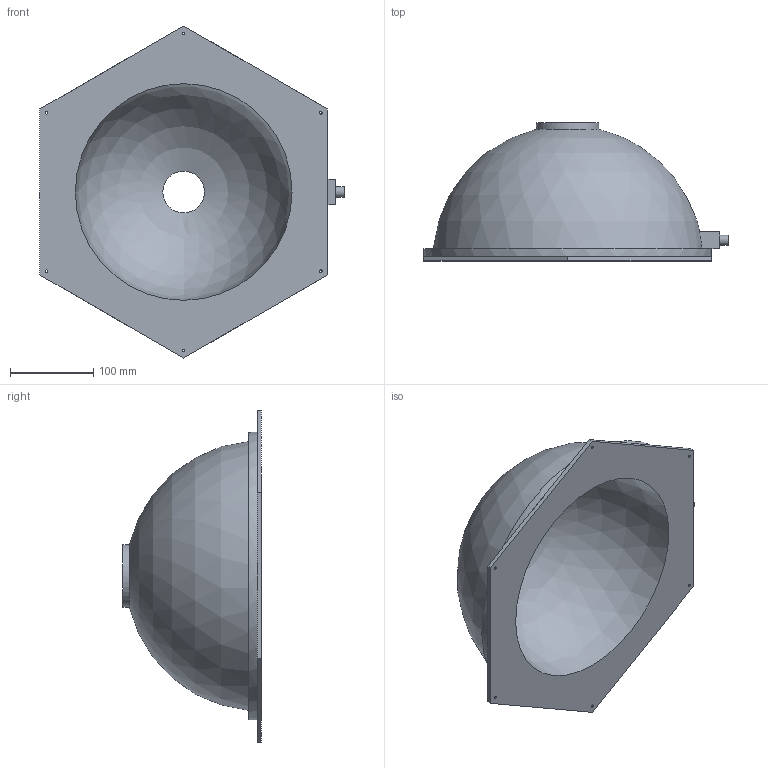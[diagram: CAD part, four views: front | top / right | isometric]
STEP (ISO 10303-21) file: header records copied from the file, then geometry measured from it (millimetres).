
FILE_DESCRIPTION( ( 'STEP AP214' ), '1' );
FILE_NAME( 'D:/Eigene Dateien/Eigene Dokumente/Buechner_S30-WLU120-24-M12-8-14_dome327.stp', '2018-01-17T05:53:48', ( '' ), ( '' ), ' ', 'PARTsolutions', ' ' );
FILE_SCHEMA( ( 'AUTOMOTIVE_DESIGN { 1 0 10303 214 1 1 1 1 }' ) );
Length unit declared in the file: millimetre
Products named in the file (1): _Buechner S30-WLU120-24-M12-8-14_dome327
Bounding box: 365 x 166 x 398.37 mm (x, y, z)
Volume: 4561189.8 mm3; surface area: 350800.9 mm2
Topology: 1 solids, 1 shells, 41 faces, 93 edges, 59 vertices
Faces by surface type: plane 25, cylinder 14, sphere 2
Full cylindrical faces by diameter (mm): 2.459 x4, 3.2 x6, 12 x1, 50 x1, 75 x1, 345 x1
Entity records: 1410 total; most frequent: DIRECTION 196, CARTESIAN_POINT 170, ORIENTED_EDGE 146, AXIS2_PLACEMENT_3D 81, EDGE_LOOP 76, EDGE_CURVE 73, FACE_OUTER_BOUND 57, VERTEX_POINT 55
